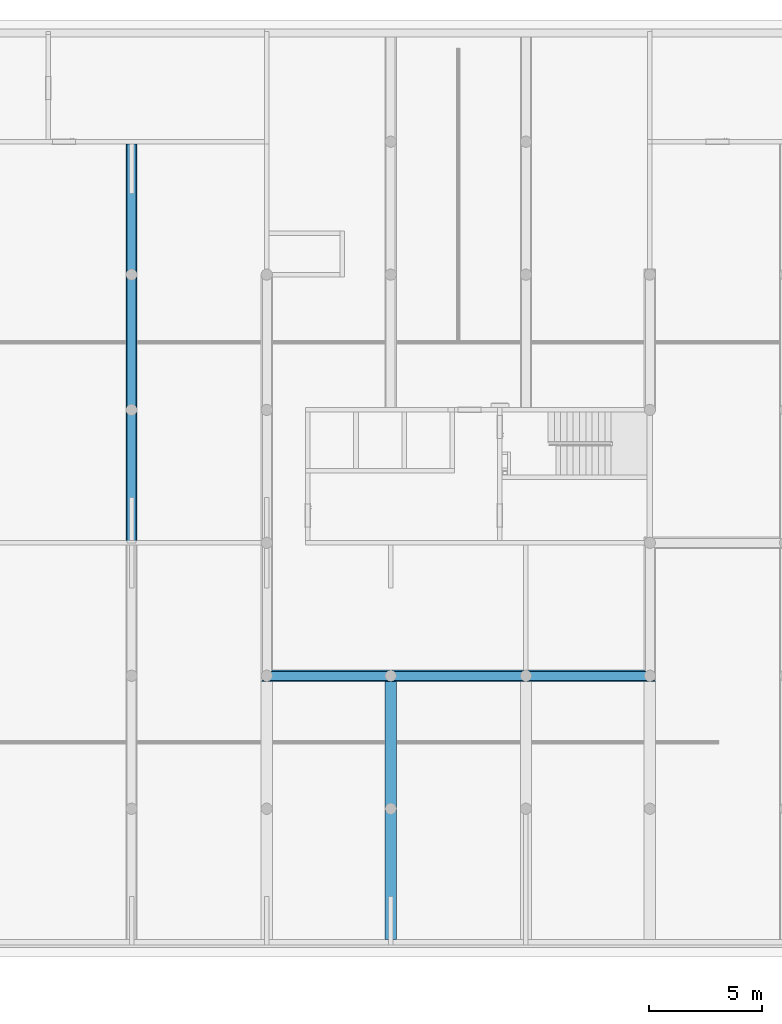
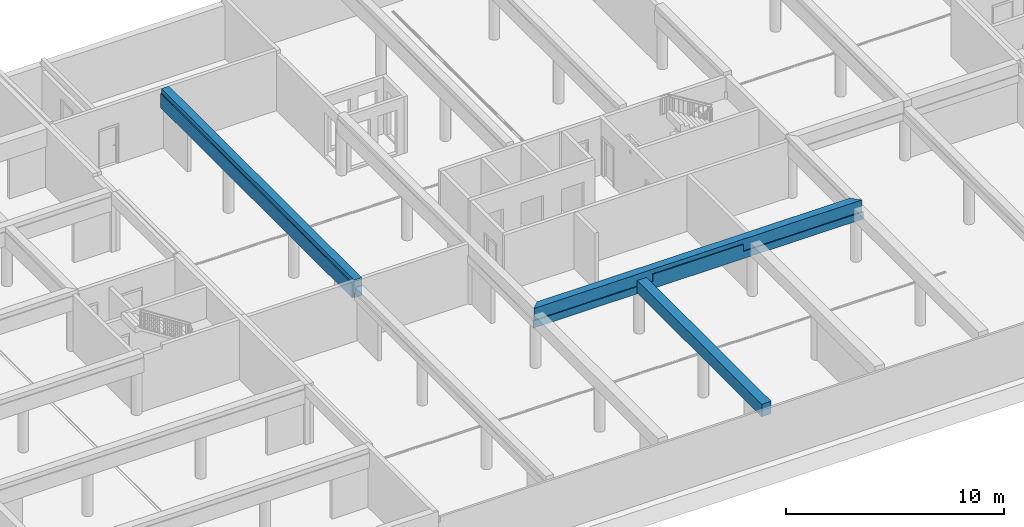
# One storey, part 9 of 25: 3 beams.
"""IFC2X3 building model written with IfcOpenShell, lengths in millimetres."""

import ifcopenshell
import ifcopenshell.guid

model = None  # the IFC model being written
_history = None  # IfcOwnerHistory: only IFC2X3 demands one
_inside = {}  # id of a spatial element -> (the spatial element, [elements in it])
_under = {}  # id of a project, library or spatial element -> (it, [spatial elements below it])
_declared = {}  # id of a project -> (the project, [libraries it declares])
_typed = {}  # id of a type object -> (the type object, [elements of that type])
_made_of = {}  # id of a material, layer set ... -> (it, [elements and type objects made of it])


def new_model(schema):
    """Start an empty IFC model of exactly this schema.

    Asked for "IFC4X3", IfcOpenShell would pick the latest addendum, in which some entities
    have other attributes; the version numbers below select the first issue.
    IFC2X3 requires an IfcOwnerHistory on every rooted entity: one is made here for all.
    """
    global model, _history
    if schema == "IFC4X3":
        model = ifcopenshell.file(schema_version=(4, 3, 0, 0))
    else:
        model = ifcopenshell.file(schema=schema)
    _inside.clear()
    _under.clear()
    _declared.clear()
    _typed.clear()
    _made_of.clear()
    _history = None
    if model.schema == "IFC2X3":
        org = make("IfcOrganization", Name="unknown")
        user = make(
            "IfcPersonAndOrganization",
            ThePerson=make("IfcPerson", FamilyName="unknown"),
            TheOrganization=org,
        )
        app = make(
            "IfcApplication",
            ApplicationDeveloper=org,
            Version="unknown",
            ApplicationFullName="unknown",
            ApplicationIdentifier="unknown",
        )
        _history = make(
            "IfcOwnerHistory",
            OwningUser=user,
            OwningApplication=app,
            ChangeAction="ADDED",
            CreationDate=0,
        )
    return model


def make(cls, **values):
    """One entity of the class cls with the attributes given. An attribute that is None is left unset."""
    return model.create_entity(
        cls, **{name: value for name, value in values.items() if value is not None}
    )


def entity(cls, *values):
    """Any entity or typed value of the class cls, its attributes in the order of the schema. None: left unset."""
    e = model.create_entity(cls)
    for i, value in enumerate(values):
        if value is not None:
            e[i] = value
    return e


def rooted(cls, **values):
    """An entity with a GlobalId (a new one), such as an element, a storey or a relation."""
    return make(cls, GlobalId=ifcopenshell.guid.new(), OwnerHistory=_history, **values)


def si_unit(unit_type, name, prefix=None):
    """IfcSIUnit, for example si_unit("LENGTHUNIT", "METRE", prefix="MILLI")."""
    return make("IfcSIUnit", UnitType=unit_type, Prefix=prefix, Name=name)


def converted_unit(unit_type, name, factor, base, dimensions=None, offset=None):
    """IfcConversionBasedUnit, such as the inch: factor (a typed value) times the base unit."""
    return make(
        "IfcConversionBasedUnit"
        if offset is None
        else "IfcConversionBasedUnitWithOffset",
        ConversionOffset=offset,
        Dimensions=None
        if dimensions is None
        else entity("IfcDimensionalExponents", *dimensions),
        UnitType=unit_type,
        Name=name,
        ConversionFactor=make(
            "IfcMeasureWithUnit", ValueComponent=factor, UnitComponent=base
        ),
    )


def derived_unit(unit_type, elements):
    """IfcDerivedUnit: a product of units, each with its exponent."""
    return make(
        "IfcDerivedUnit",
        Elements=[
            make("IfcDerivedUnitElement", Unit=unit, Exponent=power)
            for unit, power in elements
        ],
        UnitType=unit_type,
    )


def money_unit(currency):
    """IfcMonetaryUnit."""
    return make("IfcMonetaryUnit", Currency=currency)


def assignment(units):
    """IfcUnitAssignment: the units of a project."""
    return None if units is None else make("IfcUnitAssignment", Units=units)


def point(xyz):
    """IfcCartesianPoint."""
    return None if xyz is None else make("IfcCartesianPoint", Coordinates=xyz)


def direction(xyz):
    """IfcDirection."""
    return None if xyz is None else make("IfcDirection", DirectionRatios=xyz)


def frame(location, z_axis=None, x_axis=None):
    """IfcAxis2Placement3D, a coordinate frame: its origin and axes. An axis left out is left unset."""
    return make(
        "IfcAxis2Placement3D",
        Location=point(location),
        Axis=direction(z_axis),
        RefDirection=direction(x_axis),
    )


def origin_with_axes():
    """The frame at (0, 0, 0) with the z axis (0, 0, 1) and the x axis (1, 0, 0) written out."""
    return frame((0.0, 0.0, 0.0), z_axis=(0.0, 0.0, 1.0), x_axis=(1.0, 0.0, 0.0))


def place(relative_to, where):
    """IfcLocalPlacement: puts the frame where relative to a parent placement (None: the world)."""
    return make(
        "IfcLocalPlacement", PlacementRelTo=relative_to, RelativePlacement=where
    )


def context(
    kind, dimensions, precision=None, world=None, true_north=None, identifier=None
):
    """IfcGeometricRepresentationContext, for example the 3D "Model" context."""
    return make(
        "IfcGeometricRepresentationContext",
        ContextIdentifier=identifier,
        ContextType=kind,
        CoordinateSpaceDimension=dimensions,
        Precision=precision,
        WorldCoordinateSystem=world,
        TrueNorth=true_north,
    )


def subcontext(parent, identifier, kind, view, scale=None):
    """IfcGeometricRepresentationSubContext, for example "Body" below "Model"."""
    return make(
        "IfcGeometricRepresentationSubContext",
        ContextIdentifier=identifier,
        ContextType=kind,
        ParentContext=parent,
        TargetScale=scale,
        TargetView=view,
    )


def project(units=None, contexts=None):
    """IfcProject with its units and contexts."""
    return rooted(
        "IfcProject",
        Name="project",
        RepresentationContexts=contexts,
        UnitsInContext=assignment(units),
    )


def spatial(cls, under=None, at=None, **own):
    """A site, building, storey or space (cls), placed at a placement, below another one or the project."""
    s = rooted(cls, ObjectPlacement=at, **own)
    if under is not None:
        _under.setdefault(under.id(), (under, []))[1].append(s)
    return s


def faces_of(points, faces, orient=None, outer=None):
    """IfcFace entities. A face is a list of loops; a loop is a list of indices into points, from 0.

    orient and outer hold one flag for each loop. By default every Orientation is true, the
    first loop of a face is its IfcFaceOuterBound and the others are IfcFaceBound.
    """
    made = []
    for i, loops in enumerate(faces):
        bounds = []
        for j, loop in enumerate(loops):
            is_outer = j == 0 if outer is None else outer[i][j]
            bounds.append(
                make(
                    "IfcFaceOuterBound" if is_outer else "IfcFaceBound",
                    Bound=make("IfcPolyLoop", Polygon=[points[k] for k in loop]),
                    Orientation=True if orient is None else orient[i][j],
                )
            )
        made.append(make("IfcFace", Bounds=bounds))
    return made


def faceted_brep(points, faces, orient=None, outer=None, voids=None):
    """IfcFacetedBrep: a solid bounded by flat faces; with voids (closed shells), ...WithVoids."""
    shared = [point(p) for p in points]
    hull = make("IfcClosedShell", CfsFaces=faces_of(shared, faces, orient, outer))
    if voids is None:
        return make("IfcFacetedBrep", Outer=hull)
    return make(
        "IfcFacetedBrepWithVoids",
        Outer=hull,
        Voids=[
            make(cls, CfsFaces=faces_of(shared, fs, o, b)) for cls, fs, o, b in voids
        ],
    )


def shape(context_of_items, identifier, shape_type, items):
    """IfcShapeRepresentation: the items that make up one representation, for example the "Body"."""
    return make(
        "IfcShapeRepresentation",
        ContextOfItems=context_of_items,
        RepresentationIdentifier=identifier,
        RepresentationType=shape_type,
        Items=items,
    )


def material(Name=None, Category=None):
    """IfcMaterial."""
    return make("IfcMaterial", Name=Name, Category=Category)


def material_list(materials):
    """IfcMaterialList."""
    return make("IfcMaterialList", Materials=materials)


def made_of(thing, what):
    """Note that an element or type object is made of a material, layer set ...; save() writes the relation."""
    if what is not None:
        _made_of.setdefault(what.id(), (what, []))[1].append(thing)
    return thing


def type_object(cls, material=None, **own):
    """A type object (cls), such as IfcWallType, which elements share."""
    return made_of(rooted(cls, **own), material)


def element(
    cls,
    number,
    at=None,
    inside=None,
    cuts=None,
    type_object=None,
    material=None,
    context=None,
    identifier="Body",
    shape_type=None,
    held_by="IfcProductDefinitionShape",
    body=None,
    shapes=None,
    **own,
):
    """One element of the class cls, such as IfcWall. Its Tag is "e" and its number.

    at: its placement. inside: the storey or other place that contains it. cuts: it is an
    opening in that element (IfcRelVoidsElement). A single representation is given by context,
    identifier, shape_type and body (its items); several are given by shapes. held_by: the class
    of the entity that holds the representations. save() writes the other relations.
    """
    e = rooted(cls, Tag="e%d" % number, ObjectPlacement=at, **own)
    if body is not None:
        shapes = [shape(context, identifier, shape_type, body)]
    if shapes is not None:
        e.Representation = make(held_by, Representations=shapes)
    if inside is not None:
        _inside.setdefault(inside.id(), (inside, []))[1].append(e)
    if cuts is not None:
        rooted(
            "IfcRelVoidsElement", RelatingBuildingElement=cuts, RelatedOpeningElement=e
        )
    if type_object is not None:
        _typed.setdefault(type_object.id(), (type_object, []))[1].append(e)
    return made_of(e, material)


def aggregate(whole, parts):
    """IfcRelAggregates: a whole, such as a stair, and the parts it consists of."""
    return rooted("IfcRelAggregates", RelatingObject=whole, RelatedObjects=parts)


def save(model, path):
    """Write the relations noted so far, then the file.

    IfcRelAggregates (storeys below a building ...), IfcRelContainedInSpatialStructure (elements
    in a storey), IfcRelDefinesByType, IfcRelAssociatesMaterial and IfcRelDeclares: one each for
    every whole, place, type object, material and project.
    """
    for whole, parts in _under.values():
        aggregate(whole, parts)
    for where, things in _inside.values():
        rooted(
            "IfcRelContainedInSpatialStructure",
            RelatedElements=things,
            RelatingStructure=where,
        )
    for kind, things in _typed.values():
        rooted("IfcRelDefinesByType", RelatedObjects=things, RelatingType=kind)
    for what, things in _made_of.values():
        rooted("IfcRelAssociatesMaterial", RelatedObjects=things, RelatingMaterial=what)
    for by, libraries in _declared.values():
        rooted("IfcRelDeclares", RelatingContext=by, RelatedDefinitions=libraries)
    model.write(path)


model = new_model("IFC2X3")

# Units and contexts
model_context = context("Model", 3, precision=0.01, world=origin_with_axes(), true_north=direction((0.34421633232, 0.938890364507)))
body_context = subcontext(model_context, "Body", "Model", "MODEL_VIEW")
ifc_project = project(units=[si_unit("LENGTHUNIT", "METRE", prefix="MILLI"), si_unit("AREAUNIT", "SQUARE_METRE"), si_unit("VOLUMEUNIT", "CUBIC_METRE"), converted_unit("PLANEANGLEUNIT", "DEGREE", entity("IfcPlaneAngleMeasure", 0.0174532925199), si_unit("PLANEANGLEUNIT", "RADIAN"), dimensions=[0, 0, 0, 0, 0, 0, 0]), si_unit("SOLIDANGLEUNIT", "STERADIAN"), money_unit("USD"), converted_unit("TIMEUNIT", "Year", entity("IfcTimeMeasure", 31556926.0), si_unit("TIMEUNIT", "SECOND"), dimensions=[0, 0, 1, 0, 0, 0, 0]), si_unit("MASSUNIT", "GRAM", prefix="KILO"), si_unit("THERMODYNAMICTEMPERATUREUNIT", "DEGREE_CELSIUS"), si_unit("LUMINOUSINTENSITYUNIT", "LUMEN"), si_unit("ENERGYUNIT", "JOULE", prefix="MEGA"), derived_unit("THERMALCONDUCTANCEUNIT", [(si_unit("POWERUNIT", "WATT"), 1), (si_unit("LENGTHUNIT", "METRE"), -1), (si_unit("THERMODYNAMICTEMPERATUREUNIT", "KELVIN"), -1)]), derived_unit("SPECIFICHEATCAPACITYUNIT", [(si_unit("ENERGYUNIT", "JOULE"), 1), (si_unit("MASSUNIT", "GRAM", prefix="KILO"), -1), (si_unit("THERMODYNAMICTEMPERATUREUNIT", "KELVIN"), -1)]), derived_unit("MASSDENSITYUNIT", [(si_unit("MASSUNIT", "GRAM", prefix="KILO"), 1), (si_unit("VOLUMEUNIT", "CUBIC_METRE"), -1)])], contexts=[model_context])

# Site, building, storey
site_placement = place(None, origin_with_axes())
site = spatial("IfcSite", under=ifc_project, at=site_placement, Name="USTRONIE MORSKIE", CompositionType="ELEMENT")
building_placement = place(site_placement, origin_with_axes())
building = spatial("IfcBuilding", under=site, at=building_placement, Name="Budynek", CompositionType="ELEMENT")
storey_placement = place(building_placement, frame((0.0, 0.0, -3600.0), z_axis=(0.0, 0.0, 1.0), x_axis=(1.0, 0.0, 0.0)))
storey = spatial("IfcBuildingStorey", under=building, at=storey_placement, Name="GARAZ", CompositionType="ELEMENT", Elevation=-3600.0)

# Beams
ifc_material_1 = material(Name="Termoizolacja WEŁNA SKALNA")
ifc_material_2 = material(Name="Beton konstrukcyjny 01")
ifc_material_list = material_list([ifc_material_1, ifc_material_2])
beam_type_1 = type_object("IfcBeamType", Name="GARAŻ P01 500 x 1050", PredefinedType="NOTDEFINED")
beam_1_placement = place(storey_placement, frame((373317.920919, 744601.199036, 3370.00030619), z_axis=(0.0, 0.0, 1.0), x_axis=(-1.0, 0.0, 0.0)))
element("IfcBeam", 1, at=beam_1_placement, inside=storey, type_object=beam_type_1, material=ifc_material_list, Name="B1", context=body_context, shape_type="Brep", body=[
    faceted_brep([(-157.796226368, 11608.4888892, -1000.0), (-188.610434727, 11639.3030976, -1000.0), (-200.000002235, 11655.5690857, -1000.0), (-200.000002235, 5948.57350901, -1000.0), (-191.51111078, 5960.69690242, -1000.0), (-160.696902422, 5991.51111078, -1000.0), (-125.0, 6016.50635095, -1000.0), (-85.5050358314, 6034.9231552, -1000.0), (-43.4120444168, 6046.20193825, -1000.0), (0.0, 6050.0, -1000.0), (43.4120444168, 6046.20193825, -1000.0), (85.5050358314, 6034.9231552, -1000.0), (125.0, 6016.50635095, -1000.0), (160.696902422, 5991.51111078, -1000.0), (191.51111078, 5960.69690242, -1000.0), (199.99999553, 5948.57351859, -1000.0), (199.99999553, 11647.2838867, -1000.0), (194.411786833, 11639.3030976, -1000.0), (163.597578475, 11608.4888892, -1000.0), (127.900676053, 11583.4936491, -1000.0), (88.4057118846, 11565.0768448, -1000.0), (46.3127204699, 11553.7980617, -1000.0), (2.90067605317, 11550.0, -1000.0), (-40.5113683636, 11553.7980617, -1000.0), (-82.6043597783, 11565.0768448, -1000.0), (-122.099323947, 11583.4936491, -1000.0), (-157.796226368, 11608.4888892, -1050.0), (-188.610434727, 11639.3030976, -1050.0), (-213.605674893, 11675.0, -1050.0), (-213.605674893, 11675.0, -1000.0), (-200.000002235, 11944.4309143, -1000.0), (-200.000002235, 17600.0, -1000.00000224), (-200.000002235, 17600.0, -250.00000447), (-200.000002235, 0.0, -250.00000447), (-200.000002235, 0.0, -1000.00000224), (-200.000002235, 5651.42649099, -1000.0), (-216.506350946, 5925.0, -1050.0), (-191.51111078, 5960.69690242, -1050.0), (-216.506350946, 5925.0, -1000.0), (-160.696902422, 5991.51111078, -1050.0), (-125.0, 6016.50635095, -1050.0), (-85.5050358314, 6034.9231552, -1050.0), (-43.4120444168, 6046.20193825, -1050.0), (0.0, 6050.0, -1050.0), (43.4120444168, 6046.20193825, -1050.0), (85.5050358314, 6034.9231552, -1050.0), (125.0, 6016.50635095, -1050.0), (160.696902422, 5991.51111078, -1050.0), (191.51111078, 5960.69690242, -1050.0), (216.506350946, 5925.0, -1050.0), (216.506350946, 5925.0, -1000.0), (199.99999553, 11952.7161133, -1000.0), (199.99999553, 5651.42648141, -1000.0), (199.99999553, 0.0, -1000.00000224), (199.99999553, 0.0, -250.00000447), (199.99999553, 17600.0, -250.00000447), (199.99999553, 17600.0, -1000.00000224), (219.407026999, 11675.0, -1000.0), (219.407026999, 11675.0, -1050.0), (194.411786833, 11639.3030976, -1050.0), (163.597578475, 11608.4888892, -1050.0), (127.900676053, 11583.4936491, -1050.0), (88.4057118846, 11565.0768448, -1050.0), (46.3127204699, 11553.7980617, -1050.0), (2.90067605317, 11550.0, -1050.0), (-40.5113683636, 11553.7980617, -1050.0), (-82.6043597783, 11565.0768448, -1050.0), (-122.099323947, 11583.4936491, -1050.0), (-232.022479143, 11885.5050358, -1050.0), (-243.3012622, 11843.4120444, -1050.0), (-247.099323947, 11800.0, -1050.0), (-243.3012622, 11756.5879556, -1050.0), (-232.022479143, 11714.4949642, -1050.0), (237.82383125, 11714.4949642, -1050.0), (249.102614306, 11756.5879556, -1050.0), (249.999996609, 11766.8450822, -1050.0), (250.0, 5800.0, -1050.0), (246.201938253, 5843.41204442, -1050.0), (234.923155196, 5885.50503583, -1050.0), (-234.923155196, 5885.50503583, -1050.0), (-246.201938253, 5843.41204442, -1050.0), (-250.0, 5800.0, -1050.0), (-250.0, 17600.0, -1050.0), (-100.0, 17600.0, -1050.0), (-100.0, 15700.0, -1050.0), (100.0, 15700.0, -1050.0), (100.0, 17600.0, -1050.0), (249.999993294, 17600.0, -1050.0), (249.999996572, 11833.1549182, -1050.0), (249.102614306, 11843.4120444, -1050.0), (237.82383125, 11885.5050358, -1050.0), (219.407026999, 11925.0, -1050.0), (194.411786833, 11960.6969024, -1050.0), (163.597578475, 11991.5111108, -1050.0), (127.900676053, 12016.5063509, -1050.0), (88.4057118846, 12034.9231552, -1050.0), (46.3127204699, 12046.2019383, -1050.0), (2.90067605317, 12050.0, -1050.0), (-40.5113683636, 12046.2019383, -1050.0), (-82.6043597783, 12034.9231552, -1050.0), (-122.099323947, 12016.5063509, -1050.0), (-157.796226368, 11991.5111108, -1050.0), (-188.610434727, 11960.6969024, -1050.0), (-213.605674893, 11925.0, -1050.0), (-232.022479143, 11714.4949642, -1000.0), (-243.3012622, 11756.5879556, -1000.0), (-247.099323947, 11800.0, -1000.0), (-243.3012622, 11843.4120444, -1000.0), (-232.022479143, 11885.5050358, -1000.0), (-213.605674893, 11925.0, -1000.0), (194.411786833, 11960.6969024, -1000.0), (100.0, 17600.0, -1000.00030619), (100.0, 15700.0, -1000.00030619), (-100.0, 15700.0, -1000.00030619), (-100.0, 17600.0, -1000.00030619), (-188.610434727, 11960.6969024, -1000.0), (-157.796226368, 11991.5111108, -1000.0), (-122.099323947, 12016.5063509, -1000.0), (-82.6043597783, 12034.9231552, -1000.0), (-40.5113683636, 12046.2019383, -1000.0), (2.90067605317, 12050.0, -1000.0), (46.3127204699, 12046.2019383, -1000.0), (88.4057118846, 12034.9231552, -1000.0), (127.900676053, 12016.5063509, -1000.0), (163.597578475, 11991.5111108, -1000.0), (-250.0, 17600.0, -250.00000447), (-250.0, 0.0, -250.00000447), (-250.0, 0.0, -1050.0), (-100.0, 0.0, -1050.0), (-100.0, 0.0, -1000.00000224), (-160.696902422, 5608.48888922, -1000.0), (-191.51111078, 5639.30309758, -1000.0), (-100.0, 2200.99283942, -1000.00000224), (100.0, 2200.99283942, -1000.00000224), (100.0, 0.0, -1000.00000224), (191.51111078, 5639.30309758, -1000.0), (160.696902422, 5608.48888922, -1000.0), (125.0, 5583.49364905, -1000.0), (85.5050358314, 5565.0768448, -1000.0), (43.4120444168, 5553.79806175, -1000.0), (0.0, 5550.0, -1000.0), (-43.4120444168, 5553.79806175, -1000.0), (-85.5050358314, 5565.0768448, -1000.0), (-125.0, 5583.49364905, -1000.0), (-216.506350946, 5675.0, -1000.0), (-234.923155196, 5714.49496417, -1000.0), (-246.201938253, 5756.58795558, -1000.0), (-250.0, 5800.0, -1000.0), (-246.201938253, 5843.41204442, -1000.0), (-234.923155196, 5885.50503583, -1000.0), (234.923155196, 5885.50503583, -1000.0), (246.201938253, 5843.41204442, -1000.0), (250.0, 5800.0, -1000.0), (246.201938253, 5756.58795558, -1000.0), (234.923155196, 5714.49496417, -1000.0), (216.506350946, 5675.0, -1000.0), (219.407026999, 11925.0, -1000.0), (237.82383125, 11885.5050358, -1000.0), (249.102614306, 11843.4120444, -1000.0), (249.999993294, 11833.1549556, -1000.0), (249.999993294, 11766.8450444, -1000.0), (249.102614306, 11756.5879556, -1000.0), (237.82383125, 11714.4949642, -1000.0), (100.0, 0.0, -1050.0), (249.999993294, 0.0, -1050.0), (249.999993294, 0.0, -250.00000447), (249.999993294, 17600.0, -250.00000447), (246.201938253, 5756.58795558, -1050.0), (100.0, 2200.99283942, -1050.0), (-100.0, 2200.99283942, -1050.0), (-246.201938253, 5756.58795558, -1050.0), (-234.923155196, 5714.49496417, -1050.0), (-216.506350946, 5675.0, -1050.0), (-191.51111078, 5639.30309758, -1050.0), (-160.696902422, 5608.48888922, -1050.0), (-125.0, 5583.49364905, -1050.0), (-85.5050358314, 5565.0768448, -1050.0), (-43.4120444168, 5553.79806175, -1050.0), (0.0, 5550.0, -1050.0), (43.4120444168, 5553.79806175, -1050.0), (85.5050358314, 5565.0768448, -1050.0), (125.0, 5583.49364905, -1050.0), (160.696902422, 5608.48888922, -1050.0), (191.51111078, 5639.30309758, -1050.0), (216.506350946, 5675.0, -1050.0), (234.923155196, 5714.49496417, -1050.0)], [[[0, 1, 2, 3, 4, 5, 6, 7, 8, 9, 10, 11, 12, 13, 14, 15, 16, 17, 18, 19, 20, 21, 22, 23, 24, 25]], [[1, 0, 26, 27]], [[27, 28, 29, 2, 1]], [[2, 30, 31, 32, 33, 34, 35, 3]], [[36, 37, 4, 3, 38]], [[5, 4, 37, 39]], [[6, 5, 39, 40]], [[7, 6, 40, 41]], [[8, 7, 41, 42]], [[9, 8, 42, 43]], [[10, 9, 43, 44]], [[11, 10, 44, 45]], [[12, 11, 45, 46]], [[13, 12, 46, 47]], [[14, 13, 47, 48]], [[15, 14, 48, 49, 50]], [[51, 16, 15, 52, 53, 54, 55, 56]], [[17, 16, 57, 58, 59]], [[18, 17, 59, 60]], [[19, 18, 60, 61]], [[20, 19, 61, 62]], [[21, 20, 62, 63]], [[22, 21, 63, 64]], [[23, 22, 64, 65]], [[24, 23, 65, 66]], [[25, 24, 66, 67]], [[0, 25, 67, 26]], [[68, 69, 70, 71, 72, 28, 27, 26, 67, 66, 65, 64, 63, 62, 61, 60, 59, 58, 73, 74, 75, 76, 77, 78, 49, 48, 47, 46, 45, 44, 43, 42, 41, 40, 39, 37, 36, 79, 80, 81, 82, 83, 84, 85, 86, 87, 88, 89, 90, 91, 92, 93, 94, 95, 96, 97, 98, 99, 100, 101, 102, 103]], [[28, 72, 104, 29]], [[30, 2, 29, 104, 105, 106, 107, 108, 109]], [[110, 51, 56, 111, 112, 113, 114, 31, 30, 115, 116, 117, 118, 119, 120, 121, 122, 123, 124]], [[31, 114, 83, 82, 125, 32]], [[33, 32, 125, 126]], [[127, 128, 129, 34, 33, 126]], [[130, 131, 35, 34, 129, 132, 133, 134, 53, 52, 135, 136, 137, 138, 139, 140, 141, 142, 143]], [[3, 35, 144, 145, 146, 147, 148, 149, 38]], [[79, 36, 38, 149]], [[49, 78, 150, 50]], [[52, 15, 50, 150, 151, 152, 153, 154, 155]], [[16, 51, 156, 157, 158, 159, 160, 161, 162, 57]], [[53, 134, 163, 164, 165, 54]], [[165, 166, 55, 54]], [[87, 86, 111, 56, 55, 166]], [[73, 58, 57, 162]], [[69, 68, 108, 107]], [[70, 69, 107, 106]], [[71, 70, 106, 105]], [[72, 71, 105, 104]], [[74, 73, 162, 161]], [[75, 74, 161, 160]], [[159, 88, 87, 166, 165, 164, 76, 75, 160]], [[77, 76, 152, 151]], [[78, 77, 151, 150]], [[80, 79, 149, 148]], [[81, 80, 148, 147]], [[126, 125, 82, 81, 127]], [[83, 114, 113, 84]], [[84, 113, 112, 85]], [[85, 112, 111, 86]], [[89, 88, 159, 158]], [[90, 89, 158, 157]], [[91, 90, 157, 156]], [[51, 110, 92, 91, 156]], [[110, 124, 93, 92]], [[124, 123, 94, 93]], [[123, 122, 95, 94]], [[122, 121, 96, 95]], [[121, 120, 97, 96]], [[120, 119, 98, 97]], [[119, 118, 99, 98]], [[118, 117, 100, 99]], [[117, 116, 101, 100]], [[116, 115, 102, 101]], [[103, 102, 115, 30, 109]], [[68, 103, 109, 108]], [[167, 76, 164, 163, 168, 169, 128, 127, 81, 170, 171, 172, 173, 174, 175, 176, 177, 178, 179, 180, 181, 182, 183, 184, 185]], [[169, 132, 129, 128]], [[131, 130, 174, 173]], [[173, 172, 144, 35, 131]], [[168, 133, 132, 169]], [[168, 163, 134, 133]], [[135, 52, 155, 184, 183]], [[136, 135, 183, 182]], [[137, 136, 182, 181]], [[138, 137, 181, 180]], [[139, 138, 180, 179]], [[140, 139, 179, 178]], [[141, 140, 178, 177]], [[142, 141, 177, 176]], [[143, 142, 176, 175]], [[130, 143, 175, 174]], [[172, 171, 145, 144]], [[171, 170, 146, 145]], [[170, 81, 147, 146]], [[76, 167, 153, 152]], [[167, 185, 154, 153]], [[185, 184, 155, 154]]]),
    faceted_brep([(200.0, 0.0, -1000.0), (200.0, 17700.0, -1000.0), (199.99999553, 17700.0, -250.00000447), (199.99999553, 0.0, -250.00000447), (-200.0, 0.0, -1000.0), (-200.0, 17700.0, -1000.0), (-200.000002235, 17700.0, -250.00000447), (-200.0, 17700.0, 0.0), (200.0, 17700.0, 0.0), (200.0, 0.0, 0.0), (-200.0, 0.0, 0.0), (-200.000002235, 0.0, -250.00000447)], [[[0, 1, 2, 3]], [[4, 5, 1, 0]], [[2, 1, 5, 6, 7, 8]], [[3, 2, 8, 9]], [[4, 0, 3, 9, 10, 11]], [[11, 6, 5, 4]], [[10, 7, 6, 11]], [[9, 8, 7, 10]]]),
])
beam_2_placement = place(storey_placement, frame((379317.920919, 721001.199036, 3370.00030619), z_axis=(0.0, 0.0, 1.0), x_axis=(0.0, -1.0, 0.0)))
element("IfcBeam", 2, at=beam_2_placement, inside=storey, type_object=beam_type_1, material=ifc_material_list, Name="B1", context=body_context, shape_type="Brep", body=[
    faceted_brep([(176.114572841, 17176.1145728, -1050.0), (176.114572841, 17176.1145728, -1000.0), (199.99999553, 17199.9999955, -1000.00000224), (199.99999553, 17199.9999955, -650.000306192), (249.999993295, 17249.9999933, -650.000306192), (249.999993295, 17249.9999933, -1050.0), (191.522601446, 17160.7065442, -1000.0), (191.522601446, 17160.7065442, -1050.0), (199.99999553, 17148.5995708, -1000.0), (199.99999553, 16851.4004292, -1000.0), (199.99999553, 11648.5995708, -1000.0), (199.99999553, 11351.4004292, -1000.0), (199.99999553, 5648.59957077, -1000.0), (199.99999553, 5351.40042923, -1000.0), (199.99999553, 148.599570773, -1000.0), (199.99999553, -148.599570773, -1000.0), (199.99999553, -200.000002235, -1000.00000224), (199.99999553, -200.000002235, -650.000306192), (199.99999553, 6099.99473628, -650.000306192), (199.99999553, 6099.99999925, -250.00000447), (199.99999553, 10900.0, -250.00000447), (199.99999553, 10900.0, -650.000306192), (249.999993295, 10899.9973777, -650.000306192), (249.999993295, 17000.1715274, -1000.0), (249.999993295, 17000.1715274, -1050.0), (249.999993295, 10900.0, -250.00000447), (249.999993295, 6099.99999925, -250.00000447), (249.999993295, 6099.99211401, -650.000306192), (249.999993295, -250.0, -650.000306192), (249.999993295, -250.0, -1050.0), (249.999993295, -0.171527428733, -1050.0), (249.999993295, -0.171527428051, -1000.0), (249.999993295, 0.171527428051, -1000.0), (249.999993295, 0.171527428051, -1050.0), (249.999993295, 5499.82847257, -1050.0), (249.999993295, 5499.82847257, -1000.0), (249.999993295, 5500.17152743, -1000.0), (249.999993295, 5500.17152743, -1050.0), (249.999993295, 11499.8284726, -1050.0), (249.999993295, 11499.8284726, -1000.0), (249.999993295, 11500.1715274, -1000.0), (249.999993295, 11500.1715274, -1050.0), (249.999993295, 16999.8284726, -1050.0), (249.999993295, 16999.8284726, -1000.0), (246.216710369, 17043.4146491, -1050.0), (234.937250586, 17085.5101661, -1050.0), (216.519341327, 17125.0075, -1050.0), (216.519341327, 17125.0075, -1000.0), (234.937250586, 17085.5101661, -1000.0), (246.216710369, 17043.4146491, -1000.0), (246.216710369, 16956.5853509, -1000.0), (234.937250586, 16914.4898339, -1000.0), (216.519341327, 16874.9925, -1000.0), (-160.706544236, 16808.4773986, -1000.0), (-176.114572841, 16823.8854272, -1000.0), (-200.000002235, 16799.9999978, -1000.00000224), (-200.000002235, 11648.5995612, -1000.0), (-191.522601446, 11660.7065442, -1000.0), (-160.706544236, 11691.5226014, -1000.0), (-125.0075, 11716.5193413, -1000.0), (-85.5101661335, 11734.9372506, -1000.0), (-43.4146491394, 11746.2167104, -1000.0), (0.0, 11750.015, -1000.0), (43.4146491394, 11746.2167104, -1000.0), (85.5101661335, 11734.9372506, -1000.0), (125.0075, 11716.5193413, -1000.0), (160.706544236, 11691.5226014, -1000.0), (191.522601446, 11660.7065442, -1000.0), (191.522601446, 16839.2934558, -1000.0), (160.706544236, 16808.4773986, -1000.0), (125.0075, 16783.4806587, -1000.0), (85.5101661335, 16765.0627494, -1000.0), (43.4146491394, 16753.7832896, -1000.0), (0.0, 16749.985, -1000.0), (-43.4146491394, 16753.7832896, -1000.0), (-85.5101661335, 16765.0627494, -1000.0), (-125.0075, 16783.4806587, -1000.0), (216.519341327, 11625.0075, -1000.0), (234.937250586, 11585.5101661, -1000.0), (246.216710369, 11543.4146491, -1000.0), (246.216710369, 11456.5853509, -1000.0), (234.937250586, 11414.4898339, -1000.0), (216.519341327, 11374.9925, -1000.0), (-191.522601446, 11339.2934558, -1000.0), (-200.000002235, 11351.4004388, -1000.0), (-200.000002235, 5648.5995612, -1000.0), (-191.522601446, 5660.70654424, -1000.0), (-160.706544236, 5691.52260145, -1000.0), (-125.0075, 5716.51934133, -1000.0), (-85.5101661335, 5734.93725059, -1000.0), (-43.4146491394, 5746.21671037, -1000.0), (0.0, 5750.015, -1000.0), (43.4146491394, 5746.21671037, -1000.0), (85.5101661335, 5734.93725059, -1000.0), (125.0075, 5716.51934133, -1000.0), (160.706544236, 5691.52260145, -1000.0), (191.522601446, 5660.70654424, -1000.0), (191.522601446, 11339.2934558, -1000.0), (160.706544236, 11308.4773986, -1000.0), (125.0075, 11283.4806587, -1000.0), (85.5101661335, 11265.0627494, -1000.0), (43.4146491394, 11253.7832896, -1000.0), (0.0, 11249.985, -1000.0), (-43.4146491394, 11253.7832896, -1000.0), (-85.5101661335, 11265.0627494, -1000.0), (-125.0075, 11283.4806587, -1000.0), (-160.706544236, 11308.4773986, -1000.0), (216.519341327, 5625.0075, -1000.0), (234.937250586, 5585.51016613, -1000.0), (246.216710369, 5543.41464914, -1000.0), (246.216710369, 5456.58535086, -1000.0), (234.937250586, 5414.48983387, -1000.0), (216.519341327, 5374.9925, -1000.0), (-191.522601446, 5339.29345576, -1000.0), (-200.000002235, 5351.4004388, -1000.0), (-200.000002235, 199.99999553, -1000.00000224), (-176.114576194, 176.114569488, -1000.0), (-160.706544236, 191.522601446, -1000.0), (-125.0075, 216.519341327, -1000.0), (-85.5101661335, 234.937250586, -1000.0), (-43.4146491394, 246.216710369, -1000.0), (0.0, 250.015, -1000.0), (43.4146491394, 246.216710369, -1000.0), (85.5101661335, 234.937250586, -1000.0), (125.0075, 216.519341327, -1000.0), (160.706544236, 191.522601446, -1000.0), (191.522601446, 160.706544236, -1000.0), (191.522601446, 5339.29345576, -1000.0), (160.706544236, 5308.47739855, -1000.0), (125.0075, 5283.48065867, -1000.0), (85.5101661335, 5265.06274941, -1000.0), (43.4146491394, 5253.78328963, -1000.0), (0.0, 5249.985, -1000.0), (-43.4146491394, 5253.78328963, -1000.0), (-85.5101661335, 5265.06274941, -1000.0), (-125.0075, 5283.48065867, -1000.0), (-160.706544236, 5308.47739855, -1000.0), (216.519341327, 125.0075, -1000.0), (234.937250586, 85.5101661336, -1000.0), (246.216710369, 43.4146491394, -1000.0), (246.216710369, -43.4146491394, -1000.0), (234.937250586, -85.5101661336, -1000.0), (216.519341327, -125.0075, -1000.0), (191.522601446, -160.706544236, -1000.0), (176.114569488, -176.114576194, -1000.0), (176.114569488, -176.114576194, -1050.0), (246.216710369, -43.4146491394, -1050.0), (191.522601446, -160.706544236, -1050.0), (216.519341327, -125.0075, -1050.0), (234.937250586, -85.5101661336, -1050.0), (246.216710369, 43.4146491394, -1050.0), (246.216710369, 5456.58535086, -1050.0), (234.937250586, 85.5101661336, -1050.0), (216.519341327, 125.0075, -1050.0), (191.522601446, 160.706544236, -1050.0), (160.706544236, 191.522601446, -1050.0), (125.0075, 216.519341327, -1050.0), (85.5101661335, 234.937250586, -1050.0), (43.4146491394, 246.216710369, -1050.0), (0.0, 250.015, -1050.0), (-43.4146491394, 246.216710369, -1050.0), (-85.5101661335, 234.937250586, -1050.0), (-125.0075, 216.519341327, -1050.0), (-160.706544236, 191.522601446, -1050.0), (-176.114576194, 176.114569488, -1050.0), (-250.0, 249.999993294, -1050.0), (-250.0, 5499.82854922, -1050.0), (-246.216710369, 5456.58535086, -1050.0), (-234.937250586, 5414.48983387, -1050.0), (-216.519341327, 5374.9925, -1050.0), (-191.522601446, 5339.29345576, -1050.0), (-160.706544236, 5308.47739855, -1050.0), (-125.0075, 5283.48065867, -1050.0), (-85.5101661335, 5265.06274941, -1050.0), (-43.4146491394, 5253.78328963, -1050.0), (0.0, 5249.985, -1050.0), (43.4146491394, 5253.78328963, -1050.0), (85.5101661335, 5265.06274941, -1050.0), (125.0075, 5283.48065867, -1050.0), (160.706544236, 5308.47739855, -1050.0), (191.522601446, 5339.29345576, -1050.0), (216.519341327, 5374.9925, -1050.0), (234.937250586, 5414.48983387, -1050.0), (246.216710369, 5543.41464914, -1050.0), (246.216710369, 11456.5853509, -1050.0), (234.937250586, 5585.51016613, -1050.0), (216.519341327, 5625.0075, -1050.0), (191.522601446, 5660.70654424, -1050.0), (160.706544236, 5691.52260145, -1050.0), (125.0075, 5716.51934133, -1050.0), (85.5101661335, 5734.93725059, -1050.0), (43.4146491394, 5746.21671037, -1050.0), (0.0, 5750.015, -1050.0), (-43.4146491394, 5746.21671037, -1050.0), (-85.5101661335, 5734.93725059, -1050.0), (-125.0075, 5716.51934133, -1050.0), (-160.706544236, 5691.52260145, -1050.0), (-191.522601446, 5660.70654424, -1050.0), (-216.519341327, 5625.0075, -1050.0), (-234.937250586, 5585.51016613, -1050.0), (-246.216710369, 5543.41464914, -1050.0), (-250.0, 5500.17145078, -1050.0), (-250.0, 11400.0, -1050.0), (-228.180530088, 11400.0, -1050.0), (-216.519341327, 11374.9925, -1050.0), (-191.522601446, 11339.2934558, -1050.0), (-160.706544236, 11308.4773986, -1050.0), (-125.0075, 11283.4806587, -1050.0), (-85.5101661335, 11265.0627494, -1050.0), (-43.4146491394, 11253.7832896, -1050.0), (0.0, 11249.985, -1050.0), (43.4146491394, 11253.7832896, -1050.0), (85.5101661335, 11265.0627494, -1050.0), (125.0075, 11283.4806587, -1050.0), (160.706544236, 11308.4773986, -1050.0), (191.522601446, 11339.2934558, -1050.0), (216.519341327, 11374.9925, -1050.0), (234.937250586, 11414.4898339, -1050.0), (246.216710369, 11543.4146491, -1050.0), (246.216710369, 16956.5853509, -1050.0), (234.937250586, 11585.5101661, -1050.0), (216.519341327, 11625.0075, -1050.0), (191.522601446, 11660.7065442, -1050.0), (160.706544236, 11691.5226014, -1050.0), (125.0075, 11716.5193413, -1050.0), (85.5101661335, 11734.9372506, -1050.0), (43.4146491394, 11746.2167104, -1050.0), (0.0, 11750.015, -1050.0), (-43.4146491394, 11746.2167104, -1050.0), (-85.5101661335, 11734.9372506, -1050.0), (-125.0075, 11716.5193413, -1050.0), (-160.706544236, 11691.5226014, -1050.0), (-191.522601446, 11660.7065442, -1050.0), (-216.519341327, 11625.0075, -1050.0), (-228.180530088, 11600.0, -1050.0), (-250.0, 11600.0, -1050.0), (-250.0, 16750.0, -1050.0), (-176.114572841, 16823.8854272, -1050.0), (-160.706544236, 16808.4773986, -1050.0), (-125.0075, 16783.4806587, -1050.0), (-85.5101661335, 16765.0627494, -1050.0), (-43.4146491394, 16753.7832896, -1050.0), (0.0, 16749.985, -1050.0), (43.4146491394, 16753.7832896, -1050.0), (85.5101661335, 16765.0627494, -1050.0), (125.0075, 16783.4806587, -1050.0), (160.706544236, 16808.4773986, -1050.0), (191.522601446, 16839.2934558, -1050.0), (216.519341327, 16874.9925, -1050.0), (234.937250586, 16914.4898339, -1050.0), (-250.0, 16750.0, -250.00000447), (-200.000002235, 16799.9999978, -250.00000447), (-200.000002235, 11600.0, -1000.0), (-200.000002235, 11600.0, -250.00000447), (-216.519341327, 11625.0075, -1000.0), (-216.519341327, 11374.9925, -1000.0), (-200.000002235, 11400.0, -1000.0), (-200.000002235, 11400.0, -250.00000447), (-200.000002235, 199.99999553, -250.00000447), (-216.519341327, 5625.0075, -1000.0), (-216.519341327, 5374.9925, -1000.0), (-250.0, 249.999993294, -250.00000447), (-250.0, 5499.82854922, -1000.0), (-250.0, 11400.0, -250.00000447), (-250.0, 5500.17145078, -1000.0), (-246.216710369, 5456.58535086, -1000.0), (-234.937250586, 5414.48983387, -1000.0), (-234.937250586, 5585.51016613, -1000.0), (-246.216710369, 5543.41464914, -1000.0), (-228.180530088, 11400.0, -1000.0), (-228.180530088, 11600.0, -1000.0), (-250.0, 11600.0, -250.00000447)], [[[0, 1, 2, 3, 4, 5]], [[6, 1, 0, 7]], [[6, 8, 2, 1]], [[8, 9, 10, 11, 12, 13, 14, 15, 16, 17, 18, 19, 20, 21, 3, 2]], [[21, 22, 4, 3]], [[23, 24, 5, 4, 22, 25, 26, 27, 28, 29, 30, 31, 32, 33, 34, 35, 36, 37, 38, 39, 40, 41, 42, 43]], [[7, 0, 5, 24, 44, 45, 46]], [[8, 6, 7, 46, 47]], [[9, 8, 47, 48, 49, 23, 43, 50, 51, 52]], [[53, 54, 55, 56, 57, 58, 59, 60, 61, 62, 63, 64, 65, 66, 67, 10, 9, 68, 69, 70, 71, 72, 73, 74, 75, 76]], [[11, 10, 77, 78, 79, 40, 39, 80, 81, 82]], [[83, 84, 85, 86, 87, 88, 89, 90, 91, 92, 93, 94, 95, 96, 12, 11, 97, 98, 99, 100, 101, 102, 103, 104, 105, 106]], [[13, 12, 107, 108, 109, 36, 35, 110, 111, 112]], [[113, 114, 115, 116, 117, 118, 119, 120, 121, 122, 123, 124, 125, 126, 14, 13, 127, 128, 129, 130, 131, 132, 133, 134, 135, 136]], [[15, 14, 137, 138, 139, 32, 31, 140, 141, 142]], [[143, 144, 16, 15]], [[144, 145, 29, 28, 17, 16]], [[27, 18, 17, 28]], [[19, 18, 27, 26]], [[25, 20, 19, 26]], [[25, 22, 21, 20]], [[44, 24, 23, 49]], [[146, 30, 29, 145, 147, 148, 149]], [[31, 30, 146, 140]], [[150, 33, 32, 139]], [[151, 34, 33, 150, 152, 153, 154, 155, 156, 157, 158, 159, 160, 161, 162, 163, 164, 165, 166, 167, 168, 169, 170, 171, 172, 173, 174, 175, 176, 177, 178, 179, 180, 181, 182]], [[35, 34, 151, 110]], [[183, 37, 36, 109]], [[184, 38, 37, 183, 185, 186, 187, 188, 189, 190, 191, 192, 193, 194, 195, 196, 197, 198, 199, 200, 201, 202, 203, 204, 205, 206, 207, 208, 209, 210, 211, 212, 213, 214, 215, 216, 217]], [[39, 38, 184, 80]], [[218, 41, 40, 79]], [[219, 42, 41, 218, 220, 221, 222, 223, 224, 225, 226, 227, 228, 229, 230, 231, 232, 233, 234, 235, 236, 237, 238, 239, 240, 241, 242, 243, 244, 245, 246, 247, 248, 249]], [[43, 42, 219, 50]], [[45, 44, 49, 48]], [[46, 45, 48, 47]], [[219, 249, 51, 50]], [[249, 248, 52, 51]], [[248, 247, 68, 9, 52]], [[237, 54, 53, 238]], [[54, 237, 236, 250, 251, 55]], [[252, 56, 55, 251, 253]], [[57, 56, 254, 233, 232]], [[58, 57, 232, 231]], [[59, 58, 231, 230]], [[60, 59, 230, 229]], [[61, 60, 229, 228]], [[62, 61, 228, 227]], [[63, 62, 227, 226]], [[64, 63, 226, 225]], [[65, 64, 225, 224]], [[66, 65, 224, 223]], [[67, 66, 223, 222]], [[10, 67, 222, 221, 77]], [[69, 68, 247, 246]], [[70, 69, 246, 245]], [[71, 70, 245, 244]], [[72, 71, 244, 243]], [[73, 72, 243, 242]], [[74, 73, 242, 241]], [[75, 74, 241, 240]], [[76, 75, 240, 239]], [[53, 76, 239, 238]], [[221, 220, 78, 77]], [[220, 218, 79, 78]], [[184, 217, 81, 80]], [[217, 216, 82, 81]], [[216, 215, 97, 11, 82]], [[205, 204, 255, 84, 83]], [[84, 256, 257, 258, 115, 114, 85]], [[86, 85, 259, 198, 197]], [[87, 86, 197, 196]], [[88, 87, 196, 195]], [[89, 88, 195, 194]], [[90, 89, 194, 193]], [[91, 90, 193, 192]], [[92, 91, 192, 191]], [[93, 92, 191, 190]], [[94, 93, 190, 189]], [[95, 94, 189, 188]], [[96, 95, 188, 187]], [[12, 96, 187, 186, 107]], [[98, 97, 215, 214]], [[99, 98, 214, 213]], [[100, 99, 213, 212]], [[101, 100, 212, 211]], [[102, 101, 211, 210]], [[103, 102, 210, 209]], [[104, 103, 209, 208]], [[105, 104, 208, 207]], [[106, 105, 207, 206]], [[83, 106, 206, 205]], [[186, 185, 108, 107]], [[185, 183, 109, 108]], [[151, 182, 111, 110]], [[182, 181, 112, 111]], [[181, 180, 127, 13, 112]], [[170, 169, 260, 114, 113]], [[164, 116, 115, 258, 261, 165]], [[117, 116, 164, 163]], [[118, 117, 163, 162]], [[119, 118, 162, 161]], [[120, 119, 161, 160]], [[121, 120, 160, 159]], [[122, 121, 159, 158]], [[123, 122, 158, 157]], [[124, 123, 157, 156]], [[125, 124, 156, 155]], [[126, 125, 155, 154]], [[14, 126, 154, 153, 137]], [[128, 127, 180, 179]], [[129, 128, 179, 178]], [[130, 129, 178, 177]], [[131, 130, 177, 176]], [[132, 131, 176, 175]], [[133, 132, 175, 174]], [[134, 133, 174, 173]], [[135, 134, 173, 172]], [[136, 135, 172, 171]], [[113, 136, 171, 170]], [[153, 152, 138, 137]], [[152, 150, 139, 138]], [[146, 149, 141, 140]], [[149, 148, 142, 141]], [[148, 147, 143, 15, 142]], [[144, 143, 147, 145]], [[262, 166, 165, 261, 263, 202, 201, 264]], [[166, 262, 265, 167]], [[168, 167, 265, 266]], [[169, 168, 266, 260]], [[199, 198, 259, 267]], [[200, 199, 267, 268]], [[201, 200, 268, 264]], [[269, 203, 202, 263, 257, 256]], [[203, 269, 255, 204]], [[234, 233, 254, 270]], [[270, 252, 253, 271, 235, 234]], [[235, 271, 250, 236]], [[271, 253, 251, 250]], [[56, 252, 270, 254]], [[269, 256, 84, 255]], [[257, 263, 261, 258]], [[85, 114, 260, 266, 265, 262, 264, 268, 267, 259]]]),
    faceted_brep([(200.0, -200.000006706, -1000.0), (200.0, 17200.0, -1000.0), (199.99999553, 17199.9999955, -250.00000447), (199.99999553, -200.000002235, -250.00000447), (-200.0, 199.999993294, -1000.0), (-200.0, 16800.0, -1000.0), (-200.000002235, 16799.9999978, -250.00000447), (-200.0, 16800.0, 0.0), (200.0, 17200.0, 0.0), (200.0, -200.000006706, 0.0), (-200.0, 199.999993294, 0.0), (-200.000002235, 199.99999553, -250.00000447)], [[[0, 1, 2, 3]], [[4, 5, 1, 0]], [[2, 1, 5, 6, 7, 8]], [[3, 2, 8, 9]], [[4, 0, 3, 9, 10, 11]], [[11, 6, 5, 4]], [[10, 7, 6, 11]], [[9, 8, 7, 10]]]),
])
beam_type_2 = type_object("IfcBeamType", Name="Beton konstrukcyjny 01 500 x 700", PredefinedType="NOTDEFINED")
beam_3_placement = place(storey_placement, frame((384817.920919, 720751.199036, 3070.00030619), z_axis=(0.0, 0.0, 1.0), x_axis=(-1.0, 0.0, 0.0)))
element("IfcBeam", 3, at=beam_3_placement, inside=storey, type_object=beam_type_2, material=ifc_material_2, Name="B1", context=body_context, shape_type="Brep", body=[
    faceted_brep([(250.0, 0.0, -700.0), (-250.0, 0.0, -700.0), (-250.0, 11449.9802154, -700.0), (250.0, 11449.9802154, -700.0), (250.0, 0.0, 0.0), (-250.0, 0.0, 0.0), (-250.0, 11449.9802154, 0.0), (250.0, 11449.9802154, 0.0)], [[[0, 1, 2, 3]], [[4, 5, 1, 0]], [[1, 5, 6, 2]], [[7, 3, 2, 6]], [[4, 0, 3, 7]], [[5, 4, 7, 6]]]),
])

save(model, "model.ifc")
